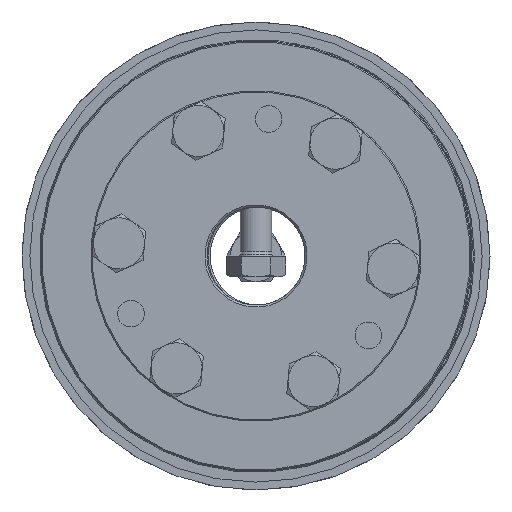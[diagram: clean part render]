
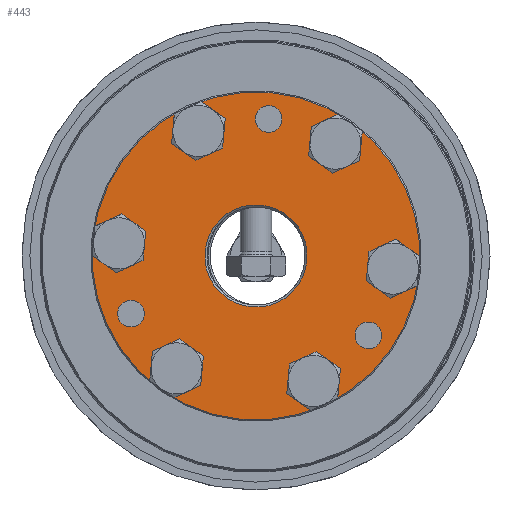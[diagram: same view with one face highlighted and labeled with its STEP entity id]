
A CAD part, left-side view. The second image highlights one B-rep face of the part: STEP entity #443.
In plain terms, the highlighted planar face has unit normal (-1, 0, 0).
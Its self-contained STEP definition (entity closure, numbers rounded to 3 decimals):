
#443 = ADVANCED_FACE( 'NONE', ( #799, #800, #801, #802, #803, #804, #805, #806, #807, #808, #809 ), #810, .F. );
#799 = FACE_OUTER_BOUND( '', #1491, .T. );
#800 = FACE_BOUND( '', #1492, .T. );
#801 = FACE_BOUND( '', #1493, .T. );
#802 = FACE_BOUND( '', #1494, .T. );
#803 = FACE_BOUND( '', #1495, .T. );
#804 = FACE_BOUND( '', #1496, .T. );
#805 = FACE_BOUND( '', #1497, .T. );
#806 = FACE_BOUND( '', #1498, .T. );
#807 = FACE_BOUND( '', #1499, .T. );
#808 = FACE_BOUND( '', #1500, .T. );
#809 = FACE_BOUND( '', #1501, .T. );
#810 = PLANE( '', #1502 );
#1491 = EDGE_LOOP( '', ( #2321 ) );
#1492 = EDGE_LOOP( '', ( #2322 ) );
#1493 = EDGE_LOOP( '', ( #2323 ) );
#1494 = EDGE_LOOP( '', ( #2324 ) );
#1495 = EDGE_LOOP( '', ( #2325 ) );
#1496 = EDGE_LOOP( '', ( #2326 ) );
#1497 = EDGE_LOOP( '', ( #2327 ) );
#1498 = EDGE_LOOP( '', ( #2328 ) );
#1499 = EDGE_LOOP( '', ( #2329 ) );
#1500 = EDGE_LOOP( '', ( #2330 ) );
#1501 = EDGE_LOOP( '', ( #2331 ) );
#1502 = AXIS2_PLACEMENT_3D( '', #2332, #2333, #2334 );
#2321 = ORIENTED_EDGE( '', *, *, #3473, .T. );
#2322 = ORIENTED_EDGE( '', *, *, #3456, .T. );
#2323 = ORIENTED_EDGE( '', *, *, #3471, .F. );
#2324 = ORIENTED_EDGE( '', *, *, #3468, .F. );
#2325 = ORIENTED_EDGE( '', *, *, #3469, .F. );
#2326 = ORIENTED_EDGE( '', *, *, #3472, .F. );
#2327 = ORIENTED_EDGE( '', *, *, #3474, .F. );
#2328 = ORIENTED_EDGE( '', *, *, #3475, .F. );
#2329 = ORIENTED_EDGE( '', *, *, #3476, .F. );
#2330 = ORIENTED_EDGE( '', *, *, #3454, .F. );
#2331 = ORIENTED_EDGE( '', *, *, #3470, .F. );
#2332 = CARTESIAN_POINT( '', ( 0., 12.5, 0. ) );
#2333 = DIRECTION( '', ( 1., 0., 0. ) );
#2334 = DIRECTION( '', ( 0., 1., 0. ) );
#3454 = EDGE_CURVE( 'NONE', #3841, #3841, #3842, .T. );
#3456 = EDGE_CURVE( 'NONE', #3845, #3845, #3846, .T. );
#3468 = EDGE_CURVE( 'NONE', #3869, #3869, #3870, .T. );
#3469 = EDGE_CURVE( 'NONE', #3871, #3871, #3872, .T. );
#3470 = EDGE_CURVE( 'NONE', #3873, #3873, #3874, .T. );
#3471 = EDGE_CURVE( 'NONE', #3875, #3875, #3876, .T. );
#3472 = EDGE_CURVE( 'NONE', #3877, #3877, #3878, .T. );
#3473 = EDGE_CURVE( 'NONE', #3879, #3879, #3880, .T. );
#3474 = EDGE_CURVE( 'NONE', #3881, #3881, #3882, .T. );
#3475 = EDGE_CURVE( 'NONE', #3883, #3883, #3884, .T. );
#3476 = EDGE_CURVE( 'NONE', #3885, #3885, #3886, .T. );
#3841 = VERTEX_POINT( '', #4489 );
#3842 = CIRCLE( '', #4490, 3.4 );
#3845 = VERTEX_POINT( '', #4493 );
#3846 = CIRCLE( '', #4494, 13. );
#3869 = VERTEX_POINT( '', #4517 );
#3870 = CIRCLE( '', #4518, 4.25 );
#3871 = VERTEX_POINT( '', #4519 );
#3872 = CIRCLE( '', #4520, 4.25 );
#3873 = VERTEX_POINT( '', #4521 );
#3874 = CIRCLE( '', #4522, 3.4 );
#3875 = VERTEX_POINT( '', #4523 );
#3876 = CIRCLE( '', #4524, 3.4 );
#3877 = VERTEX_POINT( '', #4525 );
#3878 = CIRCLE( '', #4526, 4.25 );
#3879 = VERTEX_POINT( '', #4527 );
#3880 = CIRCLE( '', #4528, 41.7 );
#3881 = VERTEX_POINT( '', #4529 );
#3882 = CIRCLE( '', #4530, 4.25 );
#3883 = VERTEX_POINT( '', #4531 );
#3884 = CIRCLE( '', #4532, 4.25 );
#3885 = VERTEX_POINT( '', #4533 );
#3886 = CIRCLE( '', #4534, 4.25 );
#4489 = CARTESIAN_POINT( '', ( 0., 17.5, 33.711 ) );
#4490 = AXIS2_PLACEMENT_3D( '', #5554, #5555, #5556 );
#4493 = CARTESIAN_POINT( '', ( 0., 0., -13. ) );
#4494 = AXIS2_PLACEMENT_3D( '', #5560, #5561, #5562 );
#4517 = CARTESIAN_POINT( '', ( 0., 0., 39.25 ) );
#4518 = AXIS2_PLACEMENT_3D( '', #5596, #5597, #5598 );
#4519 = CARTESIAN_POINT( '', ( 0., 30.311, 21.75 ) );
#4520 = AXIS2_PLACEMENT_3D( '', #5599, #5600, #5601 );
#4521 = CARTESIAN_POINT( '', ( 0., -35., 3.4 ) );
#4522 = AXIS2_PLACEMENT_3D( '', #5602, #5603, #5604 );
#4523 = CARTESIAN_POINT( '', ( 0., 17.5, -26.911 ) );
#4524 = AXIS2_PLACEMENT_3D( '', #5605, #5606, #5607 );
#4525 = CARTESIAN_POINT( '', ( 0., 30.311, -13.25 ) );
#4526 = AXIS2_PLACEMENT_3D( '', #5608, #5609, #5610 );
#4527 = CARTESIAN_POINT( '', ( 0., 0., -41.7 ) );
#4528 = AXIS2_PLACEMENT_3D( '', #5611, #5612, #5613 );
#4529 = CARTESIAN_POINT( '', ( 0., 0., -30.75 ) );
#4530 = AXIS2_PLACEMENT_3D( '', #5614, #5615, #5616 );
#4531 = CARTESIAN_POINT( '', ( 0., -30.311, -13.25 ) );
#4532 = AXIS2_PLACEMENT_3D( '', #5617, #5618, #5619 );
#4533 = CARTESIAN_POINT( '', ( 0., -30.311, 21.75 ) );
#4534 = AXIS2_PLACEMENT_3D( '', #5620, #5621, #5622 );
#5554 = CARTESIAN_POINT( '', ( 0., 17.5, 30.311 ) );
#5555 = DIRECTION( '', ( -1., 0., 0. ) );
#5556 = DIRECTION( '', ( 0., 0., 1. ) );
#5560 = CARTESIAN_POINT( '', ( 0., 0., 0. ) );
#5561 = DIRECTION( '', ( 1., 0., 0. ) );
#5562 = DIRECTION( '', ( 0., 0., -1. ) );
#5596 = CARTESIAN_POINT( '', ( 0., 0., 35. ) );
#5597 = DIRECTION( '', ( -1., 0., 0. ) );
#5598 = DIRECTION( '', ( 0., 0., 1. ) );
#5599 = CARTESIAN_POINT( '', ( 0., 30.311, 17.5 ) );
#5600 = DIRECTION( '', ( -1., 0., 0. ) );
#5601 = DIRECTION( '', ( 0., 0., 1. ) );
#5602 = CARTESIAN_POINT( '', ( 0., -35., 0. ) );
#5603 = DIRECTION( '', ( -1., 0., 0. ) );
#5604 = DIRECTION( '', ( 0., 0., 1. ) );
#5605 = CARTESIAN_POINT( '', ( 0., 17.5, -30.311 ) );
#5606 = DIRECTION( '', ( -1., 0., 0. ) );
#5607 = DIRECTION( '', ( 0., 0., 1. ) );
#5608 = CARTESIAN_POINT( '', ( 0., 30.311, -17.5 ) );
#5609 = DIRECTION( '', ( -1., 0., 0. ) );
#5610 = DIRECTION( '', ( 0., 0., 1. ) );
#5611 = CARTESIAN_POINT( '', ( 0., 0., 0. ) );
#5612 = DIRECTION( '', ( -1., 0., 0. ) );
#5613 = DIRECTION( '', ( 0., 0., -1. ) );
#5614 = CARTESIAN_POINT( '', ( 0., 0., -35. ) );
#5615 = DIRECTION( '', ( -1., 0., 0. ) );
#5616 = DIRECTION( '', ( 0., 0., 1. ) );
#5617 = CARTESIAN_POINT( '', ( 0., -30.311, -17.5 ) );
#5618 = DIRECTION( '', ( -1., 0., 0. ) );
#5619 = DIRECTION( '', ( 0., 0., 1. ) );
#5620 = CARTESIAN_POINT( '', ( 0., -30.311, 17.5 ) );
#5621 = DIRECTION( '', ( -1., 0., 0. ) );
#5622 = DIRECTION( '', ( 0., 0., 1. ) );
